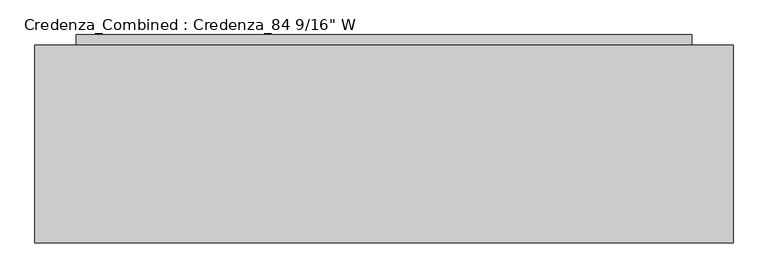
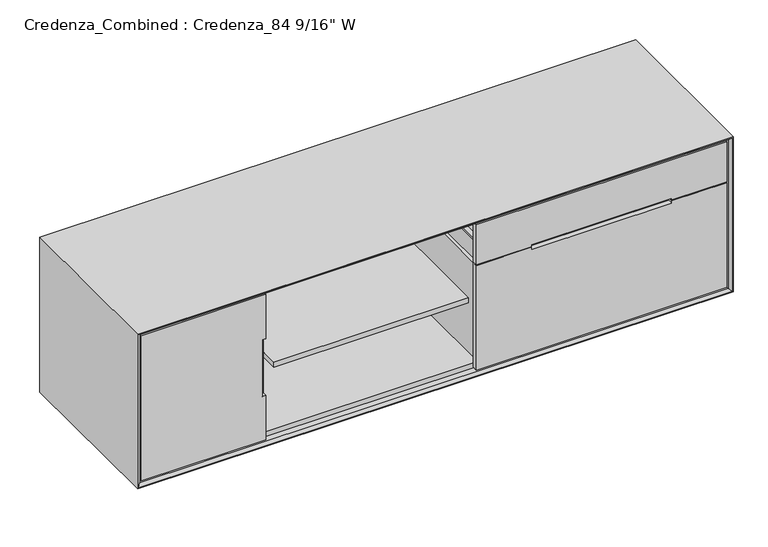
"""IFC4 building model written with IfcOpenShell, lengths in millimetres: furniture geometry."""

from ifc_helpers import new_model, si_unit, frame, origin, origin_with_axes, place, context, project, spatial, polyline, outline, extrude, faceted_brep, source, transform, mapped, element, save


def furniture_81ee7984(model_context):
    return source(origin(), model_context, "Body", "SolidModel", [
        faceted_brep([(1870.2294729, 397.0019907, 124.61875), (1870.2294729, 98.2980093, 124.61875), (2021.5267771, 98.2980093, 124.61875), (2021.5267771, 397.0019907, 124.61875), (2027.5527021, 403.0279157, 118.26875), (2027.5527021, 92.2720843, 118.26875), (1864.2035479, 92.2720843, 118.26875), (1864.2035479, 403.0279157, 118.26875), (2060.178125, 435.6533385, 492.91875), (1831.578125, 435.6533385, 492.91875), (1831.578125, 435.6533385, 499.26875), (2060.178125, 435.6533385, 499.26875), (1844.278125, 422.9533385, 492.91875), (2047.478125, 422.9533385, 492.91875), (2041.4522, 416.9274135, 499.26875), (1850.30405, 416.9274135, 499.26875), (1831.578125, 59.6466615, 492.91875), (1831.578125, 59.6466615, 499.26875), (1844.278125, 72.3466615, 492.91875), (1850.30405, 78.3725865, 499.26875), (2060.178125, 59.6466615, 492.91875), (2060.178125, 59.6466615, 499.26875), (2047.478125, 72.3466615, 492.91875), (2041.4522, 78.3725865, 499.26875)], [[[0, 1, 2, 3]], [[4, 5, 6, 7]], [[8, 9, 10, 11]], [[4, 7, 12, 13]], [[14, 15, 0, 3]], [[9, 16, 17, 10]], [[7, 6, 18, 12]], [[15, 19, 1, 0]], [[16, 20, 21, 17]], [[6, 5, 22, 18]], [[19, 23, 2, 1]], [[11, 21, 20, 8]], [[8, 20, 16, 9], [12, 18, 22, 13]], [[13, 22, 5, 4]], [[3, 2, 23, 14]], [[10, 17, 21, 11], [14, 23, 19, 15]]]),
        faceted_brep([(1486.5392771, 397.0019907, 124.61875), (1335.2419729, 397.0019907, 124.61875), (1335.2419729, 98.2980093, 124.61875), (1486.5392771, 98.2980093, 124.61875), (1329.2160479, 403.0279157, 118.26875), (1492.5652021, 403.0279157, 118.26875), (1492.5652021, 92.2720843, 118.26875), (1329.2160479, 92.2720843, 118.26875), (1296.590625, 435.6533385, 492.91875), (1296.590625, 435.6533385, 499.26875), (1525.190625, 435.6533385, 499.26875), (1525.190625, 435.6533385, 492.91875), (1309.290625, 422.9533385, 492.91875), (1512.490625, 422.9533385, 492.91875), (1315.31655, 416.9274135, 499.26875), (1506.4647, 416.9274135, 499.26875), (1525.190625, 59.6466615, 499.26875), (1525.190625, 59.6466615, 492.91875), (1512.490625, 72.3466615, 492.91875), (1506.4647, 78.3725865, 499.26875), (1296.590625, 59.6466615, 499.26875), (1296.590625, 59.6466615, 492.91875), (1309.290625, 72.3466615, 492.91875), (1315.31655, 78.3725865, 499.26875)], [[[0, 1, 2, 3]], [[4, 5, 6, 7]], [[8, 9, 10, 11]], [[4, 12, 13, 5]], [[14, 1, 0, 15]], [[11, 10, 16, 17]], [[5, 13, 18, 6]], [[15, 0, 3, 19]], [[17, 16, 20, 21]], [[6, 18, 22, 7]], [[19, 3, 2, 23]], [[9, 8, 21, 20]], [[8, 11, 17, 21], [13, 12, 22, 18]], [[12, 4, 7, 22]], [[1, 14, 23, 2]], [[10, 9, 20, 16], [14, 15, 19, 23]]]),
        faceted_brep([(1754.4299021, 397.0019907, 124.61875), (1603.1325979, 397.0019907, 124.61875), (1603.1325979, 98.2980093, 124.61875), (1754.4299021, 98.2980093, 124.61875), (1597.1066729, 403.0279157, 118.26875), (1760.4558271, 403.0279157, 118.26875), (1760.4558271, 92.2720843, 118.26875), (1597.1066729, 92.2720843, 118.26875), (1564.48125, 435.6533385, 492.91875), (1564.48125, 435.6533385, 499.26875), (1793.08125, 435.6533385, 499.26875), (1793.08125, 435.6533385, 492.91875), (1577.18125, 422.9533385, 492.91875), (1780.38125, 422.9533385, 492.91875), (1583.207175, 416.9274135, 499.26875), (1774.355325, 416.9274135, 499.26875), (1793.08125, 59.6466615, 499.26875), (1793.08125, 59.6466615, 492.91875), (1780.38125, 72.3466615, 492.91875), (1774.355325, 78.3725865, 499.26875), (1564.48125, 59.6466615, 499.26875), (1564.48125, 59.6466615, 492.91875), (1577.18125, 72.3466615, 492.91875), (1583.207175, 78.3725865, 499.26875)], [[[0, 1, 2, 3]], [[4, 5, 6, 7]], [[8, 9, 10, 11]], [[4, 12, 13, 5]], [[14, 1, 0, 15]], [[11, 10, 16, 17]], [[5, 13, 18, 6]], [[15, 0, 3, 19]], [[17, 16, 20, 21]], [[6, 18, 22, 7]], [[19, 3, 2, 23]], [[9, 8, 21, 20]], [[8, 11, 17, 21], [13, 12, 22, 18]], [[12, 4, 7, 22]], [[1, 14, 23, 2]], [[10, 9, 20, 16], [14, 15, 19, 23]]]),
        faceted_brep([(2112.9625, 466.725, 478.63125), (1244.6, 466.725, 478.63125), (1244.6, 28.575, 478.63125), (2112.9625, 28.575, 478.63125), (1257.3, 454.025, 478.63125), (2098.675, 454.025, 478.63125), (2098.675, 41.275, 478.63125), (1257.3, 41.275, 478.63125), (2112.9625, 466.725, 105.56875), (1244.6, 466.725, 105.56875), (1244.6, 28.575, 105.56875), (2112.9625, 28.575, 105.56875), (1257.3, 454.025, 118.26875), (2098.675, 454.025, 118.26875), (2098.675, 41.275, 118.26875), (1257.3, 41.275, 118.26875)], [[[0, 1, 2, 3], [4, 5, 6, 7]], [[1, 0, 8, 9]], [[2, 1, 9, 10]], [[3, 2, 10, 11]], [[8, 0, 3, 11]], [[5, 4, 12, 13]], [[6, 5, 13, 14]], [[7, 6, 14, 15]], [[4, 7, 15, 12]], [[13, 12, 15, 14]], [[8, 11, 10, 9]]]),
        extrude(outline(polyline([(504.03125, 1227.1375), (105.56875, 1227.1375), (105.56875, 2130.425), (504.03125, 2130.425), (504.03125, 1932.78125), (494.7030946, 1932.78125), (494.7030946, 1424.78125), (504.03125, 1424.78125), (504.03125, 1227.1375)])), frame((0.0, 9.525, 0.0), z_axis=(0.0, 1.0, 0.0), x_axis=(0.0, 0.0, 1.0)), (0.0, 0.0, 1.0), 19.05),
        extrude(outline(polyline([(659.60625, 2130.425), (659.60625, 1227.1375), (507.20625, 1227.1375), (507.20625, 1424.78125), (513.3594054, 1424.78125), (513.3594054, 1932.78125), (507.20625, 1932.78125), (507.20625, 2130.425), (659.60625, 2130.425)])), frame((0.0, 9.525, 0.0), z_axis=(0.0, 1.0, 0.0), x_axis=(0.0, 0.0, 1.0)), (0.0, 0.0, 1.0), 19.05),
        extrude(outline(polyline([(1198.5625, 609.6), (1198.5625, 9.525), (496.8875, 9.525), (496.8875, 609.6), (1198.5625, 609.6)])), frame((0.0, 0.0, 371.475), z_axis=(0.0, 0.0, 1.0), x_axis=(1.0, 0.0, 0.0)), (0.0, 0.0, 1.0), 19.05),
        extrude(outline(polyline([(2020.8875, 609.6), (2020.8875, 241.3), (127.0, 241.3), (127.0, 609.6), (2020.8875, 609.6)])), origin_with_axes(), (0.0, 0.0, 1.0), 87.3125),
        extrude(outline(polyline([(2020.8875, 641.35), (2020.8875, 609.6), (127.0, 609.6), (127.0, 641.35), (2020.8875, 641.35)])), origin_with_axes(), (0.0, 0.0, 1.0), 647.7),
        extrude(outline(polyline([(665.1625, 2135.1875), (665.1625, 12.7), (100.0125, 12.7), (100.0125, 2135.1875), (665.1625, 2135.1875)]), holes=[polyline([(646.1125, 31.75), (646.1125, 2116.1375), (119.0625, 2116.1375), (119.0625, 31.75), (646.1125, 31.75)])]), frame((0.0, 31.75, 0.0), z_axis=(0.0, 1.0, 0.0), x_axis=(0.0, 0.0, 1.0)), (0.0, 0.0, 1.0), 577.85),
        faceted_brep([(2135.1875, 9.525, 665.1625), (2135.1875, 609.6, 665.1625), (2135.1875, 609.6, 100.0125), (2135.1875, 9.525, 100.0125), (2144.7125, 0.0, 674.6875), (2144.7125, 0.0, 90.4875), (2147.8875, 609.6, 677.8625), (2147.8875, 0.0, 677.8625), (2147.8875, 0.0, 87.3125), (2147.8875, 609.6, 87.3125), (12.7, 609.6, 100.0125), (12.7, 9.525, 100.0125), (3.175, 0.0, 90.4875), (0.0, 0.0, 87.3125), (0.0, 609.6, 87.3125), (12.7, 609.6, 665.1625), (12.7, 9.525, 665.1625), (3.175, 0.0, 674.6875), (0.0, 0.0, 677.8625), (0.0, 609.6, 677.8625)], [[[0, 1, 2, 3]], [[4, 0, 3, 5]], [[6, 7, 8, 9]], [[3, 2, 10, 11]], [[5, 3, 11, 12]], [[9, 8, 13, 14]], [[11, 10, 15, 16]], [[12, 11, 16, 17]], [[14, 13, 18, 19]], [[9, 14, 19, 6], [1, 15, 10, 2]], [[16, 15, 1, 0]], [[17, 16, 0, 4]], [[7, 18, 13, 8], [5, 12, 17, 4]], [[19, 18, 7, 6]]]),
        faceted_brep([(468.3125, 28.575, 659.60625), (19.05, 28.575, 659.60625), (19.05, 9.525, 659.60625), (468.3125, 9.525, 659.60625), (468.3125, 28.575, 105.56875), (468.3125, 9.525, 105.56875), (19.05, 9.525, 105.56875), (19.05, 28.575, 105.56875), (468.3125, 9.525, 274.6375), (455.6125, 9.525, 274.6375), (455.6125, 9.525, 490.5375), (468.3125, 9.525, 490.5375), (468.3125, 25.4, 490.5375), (468.3125, 25.4, 274.6375), (455.6125, 25.4, 490.5375), (455.6125, 25.4, 274.6375)], [[[0, 1, 2, 3]], [[4, 5, 6, 7]], [[1, 0, 4, 7]], [[2, 1, 7, 6]], [[3, 2, 6, 5, 8, 9, 10, 11]], [[0, 3, 11, 12, 13, 8, 5, 4]], [[12, 14, 15, 13]], [[14, 12, 11, 10]], [[15, 14, 10, 9]], [[13, 15, 9, 8]]]),
        extrude(outline(polyline([(468.3125, 609.6), (468.3125, 28.575), (19.05, 28.575), (19.05, 609.6), (468.3125, 609.6)])), frame((0.0, 0.0, 382.5875), z_axis=(0.0, 0.0, 1.0), x_axis=(1.0, 0.0, 0.0)), (0.0, 0.0, 1.0), 19.05),
    ])


if __name__ == "__main__":
    model = new_model("IFC4")
    model_context = context("Model", 3, world=origin())
    ifc_project = project(units=[si_unit("LENGTHUNIT", "METRE", prefix="MILLI")], contexts=[model_context])
    site = spatial("IfcSite", under=ifc_project)
    building = spatial("IfcBuilding", under=site)
    placement = place(None, origin())
    furniture_shape = furniture_81ee7984(model_context)
    element("IfcFurniture", 1, ObjectType="Credenza_Combined : Credenza_84 9/16\" W", at=placement, inside=building, context=model_context, shape_type="MappedRepresentation", body=[
        mapped(furniture_shape, transform((0.0, 0.0, 0.0), x_axis=(1.0, 0.0, 0.0), y_axis=(0.0, 1.0, 0.0), z_axis=(0.0, 0.0, 1.0))),
    ])
    save(model, "model.ifc")
